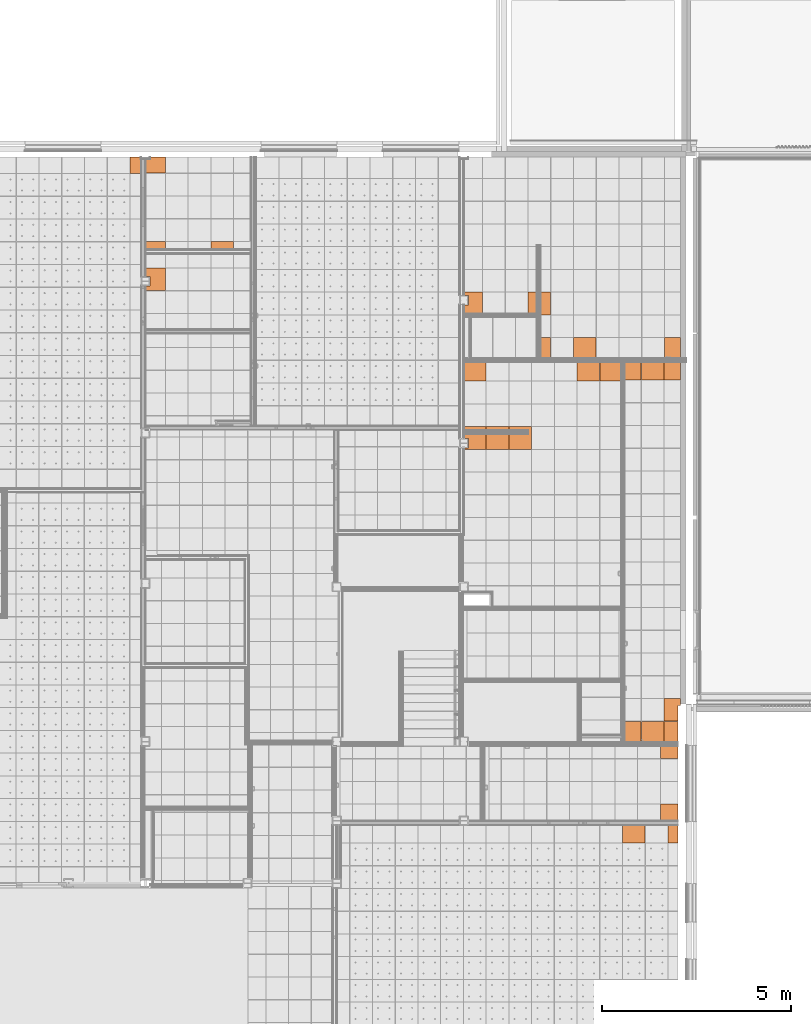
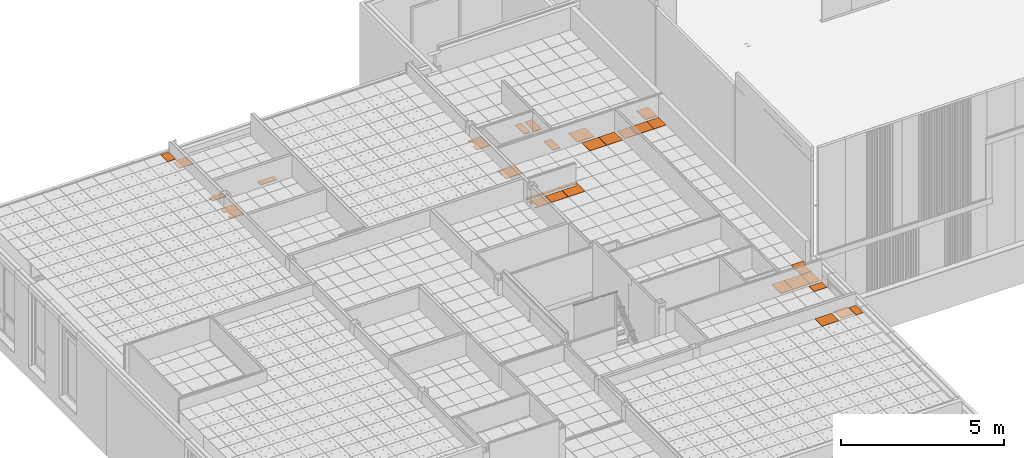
# One storey, part 335 of 338: 30 proxies, 8 elements without a shape of their own.
"""IFC2X3 building model written with IfcOpenShell, lengths in millimetres."""

from ifc_helpers import new_model, entity, si_unit, converted_unit, derived_unit, money_unit, direction, frame, origin_with_axes, place, context, subcontext, project, spatial, faceted_brep, material, type_object, element, aggregate, save


model = new_model("IFC2X3")

# Units and contexts
model_context = context("Model", 3, precision=0.01, world=origin_with_axes(), true_north=direction((0.0, 1.0)))
plan_context = context("Plan", 3, precision=0.01, world=origin_with_axes(), true_north=direction((0.0, 1.0)))
body_context = subcontext(model_context, "Body", "Model", "MODEL_VIEW")
ifc_project = project(units=[si_unit("LENGTHUNIT", "METRE", prefix="MILLI"), si_unit("AREAUNIT", "SQUARE_METRE"), si_unit("VOLUMEUNIT", "CUBIC_METRE"), converted_unit("PLANEANGLEUNIT", "DEGREE", entity("IfcPlaneAngleMeasure", 0.0174532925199), si_unit("PLANEANGLEUNIT", "RADIAN"), dimensions=[0, 0, 0, 0, 0, 0, 0]), money_unit("EUR"), converted_unit("TIMEUNIT", "Year", entity("IfcTimeMeasure", 31556926.0), si_unit("TIMEUNIT", "SECOND"), dimensions=[0, 0, 1, 0, 0, 0, 0]), si_unit("MASSUNIT", "GRAM", prefix="KILO"), si_unit("THERMODYNAMICTEMPERATUREUNIT", "DEGREE_CELSIUS"), si_unit("LUMINOUSINTENSITYUNIT", "LUMEN"), si_unit("ENERGYUNIT", "JOULE", prefix="MEGA"), derived_unit("THERMALCONDUCTANCEUNIT", [(si_unit("POWERUNIT", "WATT"), 1), (si_unit("LENGTHUNIT", "METRE"), -1), (si_unit("THERMODYNAMICTEMPERATUREUNIT", "KELVIN"), -1)]), derived_unit("SPECIFICHEATCAPACITYUNIT", [(si_unit("ENERGYUNIT", "JOULE"), 1), (si_unit("MASSUNIT", "GRAM", prefix="KILO"), -1), (si_unit("THERMODYNAMICTEMPERATUREUNIT", "KELVIN"), -1)]), derived_unit("MASSDENSITYUNIT", [(si_unit("MASSUNIT", "GRAM", prefix="KILO"), 1), (si_unit("VOLUMEUNIT", "CUBIC_METRE"), -1)])], contexts=[model_context, plan_context])

# Site, building, storey
site_placement = place(None, origin_with_axes())
site = spatial("IfcSite", under=ifc_project, at=site_placement, Name="Fortuinstraat Woensdrecht", CompositionType="ELEMENT")
building_placement = place(site_placement, origin_with_axes())
building = spatial("IfcBuilding", under=site, at=building_placement, Name="IKC Fortuna", CompositionType="ELEMENT")
storey_placement = place(building_placement, origin_with_axes())
storey = spatial("IfcBuildingStorey", under=building, at=storey_placement, Name="00 begane grond", CompositionType="ELEMENT", Elevation=0.0)

# Covering, proxy
covering_type = type_object("IfcCoveringType", Name="Curtain Wall Type", PredefinedType="CEILING")
covering_1_placement = place(storey_placement, frame((29266.9722516, 29133.4974296, 2810.0), z_axis=(0.0, 0.0, 1.0), x_axis=(1.0, 0.0, 0.0)))
covering_1 = element("IfcCovering", 1, at=covering_1_placement, inside=storey, type_object=covering_type, Name="45_Plafondafwerking_P02 v", PredefinedType="CEILING")
ifc_material = material(Name="Gipsplaat")
building_element_proxy_type_1 = type_object("IfcBuildingElementProxyType", Name="Distinct Panel 600 x 600 x 20", PredefinedType="NOTDEFINED")
proxy_1_placement = place(covering_1_placement, frame((1166.87364251, -1125.49583129, 0.0), z_axis=(0.0, 0.0, 1.0), x_axis=(1.0, 0.0, 0.0)))
proxy_1 = element("IfcBuildingElementProxy", 2, at=proxy_1_placement, type_object=building_element_proxy_type_1, material=ifc_material, Name="__Panel-D", context=body_context, shape_type="Brep", body=[
    faceted_brep([(-274.336362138, 222.995831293, -10.0), (-274.336362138, 222.995831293, 9.99999999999), (320.663637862, 222.995831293, 9.99999999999), (320.663637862, 222.995831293, -10.0), (-274.336362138, 127.004199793, -10.0), (-274.336362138, 127.004199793, 9.99999999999), (233.009088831, 127.004199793, 9.99999999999), (233.009088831, 22.004137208, 9.99999999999), (-274.336362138, 22.004137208, 9.99999999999), (-274.336362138, -372.004168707, 9.99999999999), (320.663637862, -372.004168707, 9.99999999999), (320.663637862, -372.004168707, -10.0), (-274.336362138, -372.004168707, -10.0), (-274.336362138, 22.004137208, -10.0), (233.009088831, 22.004137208, -10.0), (233.009088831, 127.004199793, -10.0)], [[[0, 1, 2, 3]], [[4, 5, 1, 0]], [[1, 5, 6, 7, 8, 9, 10, 2]], [[3, 2, 10, 11]], [[0, 3, 11, 12, 13, 14, 15, 4]], [[15, 6, 5, 4]], [[14, 7, 6, 15]], [[13, 8, 7, 14]], [[12, 9, 8, 13]], [[11, 10, 9, 12]]]),
])

covering_2_placement = place(storey_placement, frame((15059.4416165, 34009.703821, 3210.0), z_axis=(0.0, 0.0, 1.0), x_axis=(1.0, 0.0, 0.0)))
covering_2 = element("IfcCovering", 3, at=covering_2_placement, inside=storey, type_object=covering_type, Name="45_Plafondafwerking_P01", PredefinedType="CEILING")
building_element_proxy_type_2 = type_object("IfcBuildingElementProxyType", Name="Main Panel 287 x 437 x 20", PredefinedType="NOTDEFINED")
proxy_2_placement = place(covering_2_placement, frame((5293.32888965, 1170.56186608, 0.0), z_axis=(0.0, 0.0, 1.0), x_axis=(1.0, 0.0, 0.0)))
proxy_2 = element("IfcBuildingElementProxy", 4, at=proxy_2_placement, type_object=building_element_proxy_type_2, material=ifc_material, Name="__Panel-D", context=body_context, shape_type="Brep", body=[
    faceted_brep([(91.6644821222, 163.530911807, -10.0), (-190.828887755, 163.530911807, -10.0), (-190.828887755, 163.530911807, 9.99999999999), (91.6644821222, 163.530911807, 9.99999999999), (91.6644821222, 102.030953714, -10.0), (96.6644078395, 102.030953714, -10.0), (96.6644078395, -268.061864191, -10.0), (-190.828887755, -268.061864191, -10.0), (-190.828887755, -268.061864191, 9.99999999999), (96.6644078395, -268.061864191, 9.99999999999), (96.6644078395, 102.030953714, 9.99999999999), (91.6644821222, 102.030953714, 9.99999999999)], [[[0, 1, 2, 3]], [[0, 4, 5, 6, 7, 1]], [[1, 7, 8, 2]], [[3, 2, 8, 9, 10, 11]], [[4, 0, 3, 11]], [[5, 4, 11, 10]], [[6, 5, 10, 9]], [[7, 6, 9, 8]]]),
])
aggregate(covering_2, [proxy_2])

# Covering, proxies
covering_3_placement = place(storey_placement, frame((21994.4445848, 33013.5541843, 2810.0), z_axis=(0.0, 0.0, 1.0), x_axis=(1.0, 0.0, 0.0)))
covering_3 = element("IfcCovering", 5, at=covering_3_placement, inside=storey, type_object=covering_type, Name="45_Plafondafwerking_P02", PredefinedType="CEILING")
building_element_proxy_type_3 = type_object("IfcBuildingElementProxyType", Name="Distinct Panel 600 x 212 x 20", PredefinedType="NOTDEFINED")
proxy_3_placement = place(covering_3_placement, frame((600.0, 3.44918049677e-06, 0.0), z_axis=(0.0, 0.0, 1.0), x_axis=(1.0, 0.0, 0.0)))
proxy_3 = element("IfcBuildingElementProxy", 6, at=proxy_3_placement, type_object=building_element_proxy_type_3, material=ifc_material, Name="__Panel-D", context=body_context, shape_type="Brep", body=[
    faceted_brep([(297.5, 103.742352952, -10.0), (-297.5, 103.742352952, -10.0), (-297.5, 103.742352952, 9.99999999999), (297.5, 103.742352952, 9.99999999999), (297.5, -103.742340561, -10.0), (-297.5, -103.742358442, -10.0), (-297.5, -103.742358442, 9.99999999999), (297.5, -103.742340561, 9.99999999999)], [[[0, 1, 2, 3]], [[0, 4, 5, 1]], [[1, 5, 6, 2]], [[3, 2, 6, 7]], [[4, 0, 3, 7]], [[5, 4, 7, 6]]]),
])
building_element_proxy_type_4 = type_object("IfcBuildingElementProxyType", Name="Distinct Panel 518 x 212 x 20", PredefinedType="NOTDEFINED")
proxy_4_placement = place(covering_3_placement, frame((-1158.7548042, 1.01342223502e-05, 0.0), z_axis=(0.0, 0.0, 1.0), x_axis=(1.0, 0.0, 0.0)))
proxy_4 = element("IfcBuildingElementProxy", 7, at=proxy_4_placement, type_object=building_element_proxy_type_4, material=ifc_material, Name="__Panel-D", context=body_context, shape_type="Brep", body=[
    faceted_brep([(256.254804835, 103.742343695, -10.0), (-256.254804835, 103.742343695, -10.0), (-256.254804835, 103.742343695, 9.99999999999), (256.254804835, 103.742343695, 9.99999999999), (256.254804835, -103.742365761, -10.0), (-256.254804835, -103.742327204, -10.0), (-256.254804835, -103.742327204, 9.99999999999), (256.254804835, -103.742365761, 9.99999999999)], [[[0, 1, 2, 3]], [[0, 4, 5, 1]], [[1, 5, 6, 2]], [[3, 2, 6, 7]], [[4, 0, 3, 7]], [[5, 4, 7, 6]]]),
])
building_element_proxy_type_5 = type_object("IfcBuildingElementProxyType", Name="Distinct Panel 403 x 62 x 20", PredefinedType="NOTDEFINED")
proxy_5_placement = place(covering_3_placement, frame((-1206.67307388, 2170.07573825, 0.0), z_axis=(0.0, 0.0, 1.0), x_axis=(1.0, 0.0, 0.0)))
proxy_5 = element("IfcBuildingElementProxy", 8, at=proxy_5_placement, type_object=building_element_proxy_type_5, material=ifc_material, Name="__Panel-D", context=body_context, shape_type="Brep", body=[
    faceted_brep([(304.173074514, 160.166697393, -10.0), (-93.3365411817, 160.166697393, -10.0), (-93.3365411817, 160.166697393, 9.99999999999), (304.173074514, 160.166697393, 9.99999999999), (304.173074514, -261.333383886, -10.0), (-208.336535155, -261.333383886, -10.0), (-208.336535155, 98.6666867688, -10.0), (-93.3365411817, 98.6666867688, -10.0), (-93.3365411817, 98.6666867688, 9.99999999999), (-208.336535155, 98.6666867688, 9.99999999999), (-208.336535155, -261.333383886, 9.99999999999), (304.173074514, -261.333383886, 9.99999999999)], [[[0, 1, 2, 3]], [[0, 4, 5, 6, 7, 1]], [[1, 7, 8, 2]], [[3, 2, 8, 9, 10, 11]], [[4, 0, 3, 11]], [[5, 4, 11, 10]], [[6, 5, 10, 9]], [[7, 6, 9, 8]]]),
])
aggregate(covering_3, [proxy_4, proxy_3, proxy_5])

# Covering, proxy
covering_4_placement = place(storey_placement, frame((22594.4446507, 31013.6071773, 2810.0), z_axis=(0.0, 0.0, 1.0), x_axis=(1.0, 0.0, 0.0)))
covering_4 = element("IfcCovering", 9, at=covering_4_placement, inside=storey, type_object=covering_type, Name="45_Plafondafwerking_P02", PredefinedType="CEILING")
building_element_proxy_type_6 = type_object("IfcBuildingElementProxyType", Name="Distinct Panel 518 x 230 x 20", PredefinedType="NOTDEFINED")
proxy_6_placement = place(covering_4_placement, frame((-1860.63226639, 1079.94701755, 0.0), z_axis=(0.0, 0.0, 1.0), x_axis=(1.0, 0.0, 0.0)))
proxy_6 = element("IfcBuildingElementProxy", 10, at=proxy_6_placement, type_object=building_element_proxy_type_6, material=ifc_material, Name="__Panel-D", context=body_context, shape_type="Brep", body=[
    faceted_brep([(358.13226492, 323.757575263, -10.0), (-154.377426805, 323.757575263, -10.0), (-154.377426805, 323.757575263, 9.99999999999), (358.13226492, 323.757575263, 9.99999999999), (358.13226492, -271.242424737, -10.0), (-154.377426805, -271.242424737, -10.0), (-154.377426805, -151.257561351, -10.0), (-44.3774089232, -151.257561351, -10.0), (-44.3774089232, 98.7424118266, -10.0), (-154.377426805, 98.7424118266, -10.0), (-154.377426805, 98.7424118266, 9.99999999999), (-44.3774089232, 98.7424118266, 9.99999999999), (-44.3774089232, -151.257561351, 9.99999999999), (-154.377426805, -151.257561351, 9.99999999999), (-154.377426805, -271.242424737, 9.99999999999), (358.13226492, -271.242424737, 9.99999999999)], [[[0, 1, 2, 3]], [[0, 4, 5, 6, 7, 8, 9, 1]], [[1, 9, 10, 2]], [[3, 2, 10, 11, 12, 13, 14, 15]], [[4, 0, 3, 15]], [[5, 4, 15, 14]], [[6, 5, 14, 13]], [[7, 6, 13, 12]], [[8, 7, 12, 11]], [[9, 8, 11, 10]]]),
])
aggregate(covering_4, [proxy_6])

# Covering, proxies
covering_5_placement = place(storey_placement, frame((30854.3216019, 19636.030534, 2810.0), z_axis=(0.0, 0.0, 1.0), x_axis=(1.0, 0.0, 0.0)))
covering_5 = element("IfcCovering", 11, at=covering_5_placement, inside=storey, type_object=covering_type, Name="45_Plafondafwerking_P02 gec", PredefinedType="CEILING")
building_element_proxy_type_7 = type_object("IfcBuildingElementProxyType", Name="Distinct Panel 465 x 328 x 20", PredefinedType="NOTDEFINED")
proxy_7_placement = place(covering_5_placement, frame((3532.55269407, 4.04783051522e-06, 1.55875312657e-10), z_axis=(0.0, 0.0, 1.0), x_axis=(1.0, 0.0, 0.0)))
proxy_7 = element("IfcBuildingElementProxy", 12, at=proxy_7_placement, type_object=building_element_proxy_type_7, material=ifc_material, Name="__Panel-D", context=body_context, shape_type="Brep", body=[
    faceted_brep([(-230.052695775, 161.266101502, -10.0), (-230.052695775, 161.266101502, 9.99999999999), (230.052695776, 161.266101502, 9.99999999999), (230.052695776, 161.266101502, -10.0), (-230.052695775, -161.26610656, -10.0), (-230.052695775, -161.26610656, 9.99999999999), (230.052695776, -161.266106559, 9.99999999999), (230.052695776, -161.266106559, -10.0)], [[[0, 1, 2, 3]], [[4, 5, 1, 0]], [[1, 5, 6, 2]], [[3, 2, 6, 7]], [[0, 3, 7, 4]], [[7, 6, 5, 4]]]),
])
building_element_proxy_type_8 = type_object("IfcBuildingElementProxyType", Name="Distinct Panel 465 x 437 x 20", PredefinedType="NOTDEFINED")
proxy_8_placement = place(covering_5_placement, frame((3532.55269407, -1582.49999768, 1.55875312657e-10), z_axis=(0.0, 0.0, 1.0), x_axis=(1.0, 0.0, 0.0)))
proxy_8 = element("IfcBuildingElementProxy", 13, at=proxy_8_placement, type_object=building_element_proxy_type_8, material=ifc_material, Name="__Panel-D", context=body_context, shape_type="Brep", body=[
    faceted_brep([(-230.052695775, 216.233897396, -10.0), (-230.052695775, 216.233897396, 9.99999999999), (230.052695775, 216.233897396, 9.99999999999), (230.052695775, 216.233897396, -10.0), (-230.052695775, -216.233891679, -10.0), (-230.052695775, -216.233891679, 9.99999999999), (230.052695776, -216.23390554, 9.99999999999), (230.052695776, -216.23390554, -10.0)], [[[0, 1, 2, 3]], [[4, 5, 1, 0]], [[1, 5, 6, 2]], [[3, 2, 6, 7]], [[0, 3, 7, 4]], [[7, 6, 5, 4]]]),
])
aggregate(covering_5, [proxy_7, proxy_8])

covering_6_placement = place(storey_placement, frame((33951.5455551, 20180.4597436, 2810.0), z_axis=(0.0, 0.0, 1.0), x_axis=(1.0, 0.0, 0.0)))
covering_6 = element("IfcCovering", 14, at=covering_6_placement, inside=storey, type_object=covering_type, Name="45_Plafondafwerking_P02", PredefinedType="CEILING")
building_element_proxy_type_9 = type_object("IfcBuildingElementProxyType", Name="Distinct Panel 600 x 561 x 20", PredefinedType="NOTDEFINED")
proxy_9_placement = place(covering_6_placement, origin_with_axes())
proxy_9 = element("IfcBuildingElementProxy", 15, at=proxy_9_placement, type_object=building_element_proxy_type_9, material=ifc_material, Name="__Panel-D", context=body_context, shape_type="Brep", body=[
    faceted_brep([(-297.5, 278.163129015, -10.0), (-297.5, 278.163129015, 9.99999999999), (297.5, 278.163129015, 9.99999999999), (297.5, 278.163129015, -10.0), (-297.5, -278.16312626, -10.0), (-297.5, -278.16312626, 9.99999999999), (297.5, -278.16312626, 9.99999999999), (297.5, -278.16312626, -10.0)], [[[0, 1, 2, 3]], [[4, 5, 1, 0]], [[1, 5, 6, 2]], [[3, 2, 6, 7]], [[0, 3, 7, 4]], [[7, 6, 5, 4]]]),
])
building_element_proxy_type_10 = type_object("IfcBuildingElementProxyType", Name="Distinct Panel 600 x 471 x 20", PredefinedType="NOTDEFINED")
proxy_10_placement = place(covering_6_placement, frame((2.34479102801e-10, 9516.34237325, 0.0), z_axis=(0.0, 0.0, 1.0), x_axis=(1.0, 0.0, 0.0)))
proxy_10 = element("IfcBuildingElementProxy", 16, at=proxy_10_placement, type_object=building_element_proxy_type_10, material=ifc_material, Name="__Panel-D", context=body_context, shape_type="Brep", body=[
    faceted_brep([(-297.5, 233.179248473, -10.0), (-297.5, 233.179248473, 9.99999999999), (297.5, 233.179248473, 9.99999999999), (297.5, 233.179248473, -10.0), (-297.5, -233.179246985, -10.0), (-297.5, -233.179246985, 9.99999999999), (297.5, -233.179246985, 9.99999999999), (297.5, -233.179246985, -10.0)], [[[0, 1, 2, 3]], [[4, 5, 1, 0]], [[1, 5, 6, 2]], [[3, 2, 6, 7]], [[0, 3, 7, 4]], [[7, 6, 5, 4]]]),
])
building_element_proxy_type_11 = type_object("IfcBuildingElementProxyType", Name="Distinct Panel 432 x 193 x 20", PredefinedType="NOTDEFINED")
proxy_11_placement = place(covering_6_placement, frame((566.58768069, 616.387706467, 0.0), z_axis=(0.0, 0.0, 1.0), x_axis=(1.0, 0.0, 0.0)))
proxy_11 = element("IfcBuildingElementProxy", 17, at=proxy_11_placement, type_object=building_element_proxy_type_11, material=ifc_material, Name="__Panel-D", context=body_context, shape_type="Brep", body=[
    faceted_brep([(-264.087683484, 261.775419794, -10.0), (-264.087683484, 261.775419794, 9.99999999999), (162.793825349, 261.775419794, 9.99999999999), (162.793825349, 261.775419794, -10.0), (-264.087683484, -333.224580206, -10.0), (-264.087683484, -333.224580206, 9.99999999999), (98.7938432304, -333.224580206, 9.99999999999), (98.7938700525, 73.9491645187, 9.99999999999), (162.793825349, 73.9491645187, 9.99999999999), (162.793825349, 73.9491645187, -10.0), (98.7938700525, 73.9491645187, -10.0), (98.7938432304, -333.224580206, -10.0)], [[[0, 1, 2, 3]], [[4, 5, 1, 0]], [[1, 5, 6, 7, 8, 2]], [[3, 2, 8, 9]], [[0, 3, 9, 10, 11, 4]], [[11, 6, 5, 4]], [[10, 7, 6, 11]], [[9, 8, 7, 10]]]),
])
building_element_proxy_type_12 = type_object("IfcBuildingElementProxyType", Name="Distinct Panel 432 x 471 x 20", PredefinedType="NOTDEFINED")
proxy_12_placement = place(covering_6_placement, frame((515.940749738, 9516.34237325, 0.0), z_axis=(0.0, 0.0, 1.0), x_axis=(1.0, 0.0, 0.0)))
proxy_12 = element("IfcBuildingElementProxy", 18, at=proxy_12_placement, type_object=building_element_proxy_type_12, material=ifc_material, Name="__Panel-D", context=body_context, shape_type="Brep", body=[
    faceted_brep([(-213.440746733, 233.179246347, -10.0), (-213.440746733, 233.179246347, 9.99999999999), (213.440741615, 233.179246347, 9.99999999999), (213.440741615, 233.179246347, -10.0), (-213.440746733, -233.179246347, -10.0), (-213.440746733, -233.179246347, 9.99999999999), (213.440755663, -233.179246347, 9.99999999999), (213.440755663, -233.179246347, -10.0)], [[[0, 1, 2, 3]], [[4, 5, 1, 0]], [[1, 5, 6, 2]], [[3, 2, 6, 7]], [[0, 3, 7, 4]], [[7, 6, 5, 4]]]),
])
proxy_13_placement = place(covering_6_placement, frame((-515.940772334, 9516.34237325, 0.0), z_axis=(0.0, 0.0, 1.0), x_axis=(1.0, 0.0, 0.0)))
proxy_13 = element("IfcBuildingElementProxy", 19, at=proxy_13_placement, type_object=building_element_proxy_type_12, material=ifc_material, Name="__Panel-D", context=body_context, shape_type="Brep", body=[
    faceted_brep([(-213.440772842, 233.179246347, -10.0), (-213.440772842, 233.179246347, 9.99999999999), (213.440771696, 233.179246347, 9.99999999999), (213.440771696, 233.179246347, -10.0), (-213.440772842, -233.179246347, -10.0), (-213.440772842, -233.179246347, 9.99999999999), (213.440771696, -233.179246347, 9.99999999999), (213.440771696, -233.179246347, -10.0)], [[[0, 1, 2, 3]], [[4, 5, 1, 0]], [[1, 5, 6, 2]], [[3, 2, 6, 7]], [[0, 3, 7, 4]], [[7, 6, 5, 4]]]),
])
building_element_proxy_type_13 = type_object("IfcBuildingElementProxyType", Name="Distinct Panel 432 x 561 x 20", PredefinedType="NOTDEFINED")
proxy_14_placement = place(covering_6_placement, frame((-515.940765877, 0.0, 0.0), z_axis=(0.0, 0.0, 1.0), x_axis=(1.0, 0.0, 0.0)))
proxy_14 = element("IfcBuildingElementProxy", 20, at=proxy_14_placement, type_object=building_element_proxy_type_13, material=ifc_material, Name="__Panel-D", context=body_context, shape_type="Brep", body=[
    faceted_brep([(-213.440752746, 278.163126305, -10.0), (-213.440752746, 278.163126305, 9.99999999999), (213.440765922, 278.163126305, 9.99999999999), (213.440765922, 278.163126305, -10.0), (-213.440777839, -278.163126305, -10.0), (-213.440777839, -278.163126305, 9.99999999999), (213.440765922, -278.163126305, 9.99999999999), (213.440765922, -278.163126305, -10.0)], [[[0, 1, 2, 3]], [[4, 5, 1, 0]], [[1, 5, 6, 2]], [[3, 2, 6, 7]], [[0, 3, 7, 4]], [[7, 6, 5, 4]]]),
])
building_element_proxy_type_14 = type_object("IfcBuildingElementProxyType", Name="Distinct Panel 368 x 561 x 20", PredefinedType="NOTDEFINED")
proxy_15_placement = place(covering_6_placement, frame((483.940762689, 0.0, 0.0), z_axis=(0.0, 0.0, 1.0), x_axis=(1.0, 0.0, 0.0)))
proxy_15 = element("IfcBuildingElementProxy", 21, at=proxy_15_placement, type_object=building_element_proxy_type_14, material=ifc_material, Name="__Panel-D", context=body_context, shape_type="Brep", body=[
    faceted_brep([(-181.440765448, 278.163126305, -10.0), (-181.440765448, 278.163126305, 9.99999999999), (181.440762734, 278.163126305, 9.99999999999), (181.440762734, 278.163126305, -10.0), (-181.440765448, -278.163126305, -10.0), (-181.440765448, -278.163126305, 9.99999999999), (181.440762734, -278.163126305, 9.99999999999), (181.440762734, -278.163126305, -10.0)], [[[0, 1, 2, 3]], [[4, 5, 1, 0]], [[1, 5, 6, 2]], [[3, 2, 6, 7]], [[0, 3, 7, 4]], [[7, 6, 5, 4]]]),
])
aggregate(covering_6, [proxy_9, proxy_10, proxy_11, proxy_12, proxy_14, proxy_13, proxy_15])

covering_7_placement = place(storey_placement, frame((34473.6590305, 30882.3889696, 2810.0), z_axis=(0.0, 0.0, 1.0), x_axis=(1.0, 0.0, 0.0)))
covering_7 = element("IfcCovering", 22, at=covering_7_placement, inside=storey, type_object=covering_type, Name="45_Plafondafwerking_P02 v", PredefinedType="CEILING")
building_element_proxy_type_15 = type_object("IfcBuildingElementProxyType", Name="Distinct Panel 600 x 550 x 20", PredefinedType="NOTDEFINED")
proxy_16_placement = place(covering_7_placement, frame((-2309.76800248, -574.953834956, 1.04360964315e-10), z_axis=(0.0, 0.0, 1.0), x_axis=(1.0, 0.0, 0.0)))
proxy_16 = element("IfcBuildingElementProxy", 23, at=proxy_16_placement, type_object=building_element_proxy_type_15, material=ifc_material, Name="__Panel-D", context=body_context, shape_type="Brep", body=[
    faceted_brep([(-297.5, 272.453834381, -10.0), (-297.5, 272.453834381, 9.99999999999), (297.5, 272.453834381, 9.99999999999), (297.5, 272.453834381, -10.0), (-297.5, -272.453834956, -10.0), (-297.5, -272.453834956, 9.99999999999), (297.5, -272.453834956, 9.99999999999), (297.5, -272.453834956, -10.0)], [[[0, 1, 2, 3]], [[4, 5, 1, 0]], [[1, 5, 6, 2]], [[3, 2, 6, 7]], [[0, 3, 7, 4]], [[7, 6, 5, 4]]]),
])
building_element_proxy_type_16 = type_object("IfcBuildingElementProxyType", Name="Distinct Panel 487 x 566 x 20", PredefinedType="NOTDEFINED")
proxy_17_placement = place(covering_7_placement, frame((-5347.4850453, 653.476913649, 0.0), z_axis=(0.0, 0.0, 1.0), x_axis=(1.0, 0.0, 0.0)))
proxy_17 = element("IfcBuildingElementProxy", 24, at=proxy_17_placement, type_object=building_element_proxy_type_16, material=ifc_material, Name="__Panel-D", context=body_context, shape_type="Brep", body=[
    faceted_brep([(-146.739026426, 244.023088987, -10.0), (-146.739026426, 244.023088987, 9.99999999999), (335.217045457, 244.023088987, 9.99999999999), (335.217045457, 244.023088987, -10.0), (-146.739026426, 161.430753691, -10.0), (-146.739026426, 161.430753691, 9.99999999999), (-36.7389821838, 161.430753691, 9.99999999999), (-36.7389821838, -88.5692441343, 9.99999999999), (-146.739026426, -88.5692441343, 9.99999999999), (-146.739026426, -316.884605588, 9.99999999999), (335.217045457, -316.884605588, 9.99999999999), (335.217045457, -316.884605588, -10.0), (-146.739026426, -316.884605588, -10.0), (-146.739026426, -88.5692441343, -10.0), (-36.7389821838, -88.5692441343, -10.0), (-36.7389821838, 161.430753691, -10.0)], [[[0, 1, 2, 3]], [[4, 5, 1, 0]], [[1, 5, 6, 7, 8, 9, 10, 2]], [[3, 2, 10, 11]], [[0, 3, 11, 12, 13, 14, 15, 4]], [[15, 6, 5, 4]], [[14, 7, 6, 15]], [[13, 8, 7, 14]], [[12, 9, 8, 13]], [[11, 10, 9, 12]]]),
])
building_element_proxy_type_17 = type_object("IfcBuildingElementProxyType", Name="Distinct Panel 420 x 550 x 20", PredefinedType="NOTDEFINED")
proxy_18_placement = place(covering_7_placement, frame((0.0, -574.953843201, 1.80744308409e-10), z_axis=(0.0, 0.0, 1.0), x_axis=(1.0, 0.0, 0.0)))
proxy_18 = element("IfcBuildingElementProxy", 25, at=proxy_18_placement, type_object=building_element_proxy_type_17, material=ifc_material, Name="__Panel-D", context=body_context, shape_type="Brep", body=[
    faceted_brep([(-207.268004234, 272.453844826, -10.0), (-207.268004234, 272.453844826, 9.99999999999), (207.268004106, 272.453844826, 9.99999999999), (207.268004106, 272.453844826, -10.0), (-207.268004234, -272.45382854, -10.0), (-207.268004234, -272.45382854, 9.99999999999), (207.268004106, -272.453861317, 9.99999999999), (207.268004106, -272.453861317, -10.0)], [[[0, 1, 2, 3]], [[4, 5, 1, 0]], [[1, 5, 6, 2]], [[3, 2, 6, 7]], [[0, 3, 7, 4]], [[7, 6, 5, 4]]]),
])
building_element_proxy_type_18 = type_object("IfcBuildingElementProxyType", Name="Distinct Panel 270 x 600 x 20", PredefinedType="NOTDEFINED")
proxy_19_placement = place(covering_7_placement, frame((-3344.53073261, 600.0, 0.0), z_axis=(0.0, 0.0, 1.0), x_axis=(1.0, 0.0, 0.0)))
proxy_19 = element("IfcBuildingElementProxy", 26, at=proxy_19_placement, type_object=building_element_proxy_type_18, material=ifc_material, Name="__Panel-D", context=body_context, shape_type="Brep", body=[
    faceted_brep([(-132.262733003, 297.5, -10.0), (-132.262733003, 297.5, 9.99999999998), (132.262730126, 297.5, 9.99999999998), (132.262730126, 297.5, -10.0), (-132.262733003, -297.5, -10.0), (-132.262733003, -297.5, 9.99999999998), (132.262730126, -297.5, 9.99999999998), (132.262730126, -297.5, -10.0)], [[[0, 1, 2, 3]], [[4, 5, 1, 0]], [[1, 5, 6, 2]], [[3, 2, 6, 7]], [[0, 3, 7, 4]], [[7, 6, 5, 4]]]),
])
building_element_proxy_type_19 = type_object("IfcBuildingElementProxyType", Name="Distinct Panel 270 x 550 x 20", PredefinedType="NOTDEFINED")
proxy_20_placement = place(covering_7_placement, frame((-3344.53073261, -574.953834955, 0.0), z_axis=(0.0, 0.0, 1.0), x_axis=(1.0, 0.0, 0.0)))
proxy_20 = element("IfcBuildingElementProxy", 27, at=proxy_20_placement, type_object=building_element_proxy_type_19, material=ifc_material, Name="__Panel-D", context=body_context, shape_type="Brep", body=[
    faceted_brep([(-132.262730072, 272.45383673, -10.0), (-132.262730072, 272.45383673, 9.99999999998), (132.2627319, 272.45383673, 9.99999999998), (132.2627319, 272.45383673, -10.0), (-132.262730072, -272.45383673, -10.0), (-132.262730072, -272.45383673, 9.99999999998), (132.2627319, -272.45383673, 9.99999999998), (132.2627319, -272.45383673, -10.0)], [[[0, 1, 2, 3]], [[4, 5, 1, 0]], [[1, 5, 6, 2]], [[3, 2, 6, 7]], [[0, 3, 7, 4]], [[7, 6, 5, 4]]]),
])
building_element_proxy_type_20 = type_object("IfcBuildingElementProxyType", Name="Distinct Panel 230 x 566 x 20", PredefinedType="NOTDEFINED")
proxy_21_placement = place(covering_7_placement, frame((-3694.53073503, 617.046182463, 0.0), z_axis=(0.0, 0.0, 1.0), x_axis=(1.0, 0.0, 0.0)))
proxy_21 = element("IfcBuildingElementProxy", 28, at=proxy_21_placement, type_object=building_element_proxy_type_20, material=ifc_material, Name="__Panel-D", context=body_context, shape_type="Brep", body=[
    faceted_brep([(-112.737264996, 280.453820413, -10.0), (-112.737264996, 280.453820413, 10.0), (112.737270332, 280.453820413, 10.0), (112.737270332, 280.453820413, -10.0), (-112.737264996, -280.453820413, -10.0), (-112.737264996, -280.453820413, 10.0), (112.737270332, -280.453820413, 10.0), (112.737270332, -280.453820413, -10.0)], [[[0, 1, 2, 3]], [[4, 5, 1, 0]], [[1, 5, 6, 2]], [[3, 2, 6, 7]], [[0, 3, 7, 4]], [[7, 6, 5, 4]]]),
])
aggregate(covering_7, [proxy_17, proxy_16, proxy_18, proxy_19, proxy_20, proxy_21])

# Proxy
building_element_proxy_type_21 = type_object("IfcBuildingElementProxyType", Name="Distinct Panel 600 x 499 x 20", PredefinedType="NOTDEFINED")
proxy_22_placement = place(covering_1_placement, frame((2990.03728037, 549.491940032, 1.07913677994e-10), z_axis=(0.0, 0.0, 1.0), x_axis=(1.0, 0.0, 0.0)))
proxy_22 = element("IfcBuildingElementProxy", 29, at=proxy_22_placement, type_object=building_element_proxy_type_21, material=ifc_material, Name="__Panel-D", context=body_context, shape_type="Brep", body=[
    faceted_brep([(-297.5, 246.991939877, -10.0), (-297.5, 246.991939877, 9.99999999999), (297.5, 246.991939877, 9.99999999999), (297.5, 246.991939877, -10.0), (-297.5, -246.991940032, -10.0), (-297.5, -246.991940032, 9.99999999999), (297.5, -246.991940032, 9.99999999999), (297.5, -246.991940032, -10.0)], [[[0, 1, 2, 3]], [[4, 5, 1, 0]], [[1, 5, 6, 2]], [[3, 2, 6, 7]], [[0, 3, 7, 4]], [[7, 6, 5, 4]]]),
])

building_element_proxy_type_22 = type_object("IfcBuildingElementProxyType", Name="Distinct Panel 563 x 499 x 20", PredefinedType="NOTDEFINED")
proxy_23_placement = place(covering_1_placement, frame((3571.36454448, 549.491940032, 1.27009514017e-10), z_axis=(0.0, 0.0, 1.0), x_axis=(1.0, 0.0, 0.0)))
proxy_23 = element("IfcBuildingElementProxy", 30, at=proxy_23_placement, type_object=building_element_proxy_type_22, material=ifc_material, Name="__Panel-D", context=body_context, shape_type="Brep", body=[
    faceted_brep([(-278.827267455, 246.991939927, -10.0), (-278.827267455, 246.991939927, 9.99999999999), (278.827303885, 246.991939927, 9.99999999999), (278.827303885, 246.991939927, -10.0), (-278.827267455, -246.991943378, -10.0), (-278.827267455, -246.991943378, 9.99999999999), (278.827228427, -246.991943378, 9.99999999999), (278.827228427, -246.991943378, -10.0)], [[[0, 1, 2, 3]], [[4, 5, 1, 0]], [[1, 5, 6, 2]], [[3, 2, 6, 7]], [[0, 3, 7, 4]], [[7, 6, 5, 4]]]),
])

building_element_proxy_type_23 = type_object("IfcBuildingElementProxyType", Name="Distinct Panel 580 x 499 x 20", PredefinedType="NOTDEFINED")
proxy_24_placement = place(covering_1_placement, frame((-5.87757398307e-06, 549.491944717, 0.0), z_axis=(0.0, 0.0, 1.0), x_axis=(1.0, 0.0, 0.0)))
proxy_24 = element("IfcBuildingElementProxy", 31, at=proxy_24_placement, type_object=building_element_proxy_type_23, material=ifc_material, Name="__Panel-D", context=body_context, shape_type="Brep", body=[
    faceted_brep([(-287.537285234, 246.991955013, -10.0), (-287.537285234, 246.991955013, 9.99999999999), (287.537285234, 246.991937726, 9.99999999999), (287.537285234, 246.991937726, -10.0), (-287.537285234, -246.9919437, -10.0), (-287.537285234, -246.9919437, 9.99999999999), (287.537285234, -246.9919437, 9.99999999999), (287.537285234, -246.9919437, -10.0)], [[[0, 1, 2, 3]], [[4, 5, 1, 0]], [[1, 5, 6, 2]], [[3, 2, 6, 7]], [[0, 3, 7, 4]], [[7, 6, 5, 4]]]),
])

building_element_proxy_type_24 = type_object("IfcBuildingElementProxyType", Name="Distinct Panel 580 x 399 x 20", PredefinedType="NOTDEFINED")
proxy_25_placement = place(covering_1_placement, frame((-117.518628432, -1320.84832206, 0.0), z_axis=(0.0, 0.0, 1.0), x_axis=(1.0, 0.0, 0.0)))
proxy_25 = element("IfcBuildingElementProxy", 32, at=proxy_25_placement, type_object=building_element_proxy_type_24, material=ifc_material, Name="__Panel-D", context=body_context, shape_type="Brep", body=[
    faceted_brep([(-170.018639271, 217.356635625, -10.0), (-170.018639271, 217.356635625, 9.99999999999), (405.055907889, 217.356635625, 9.99999999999), (405.055907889, 217.356635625, -10.0), (-170.018639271, 104.647552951, -10.0), (-170.018639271, 104.647552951, 9.99999999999), (-60.0186249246, 104.647552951, 9.99999999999), (-60.0186249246, -145.352504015, 9.99999999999), (-170.018639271, -145.352504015, 9.99999999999), (-170.018639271, -176.651677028, 9.99999999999), (405.05590789, -176.651677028, 9.99999999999), (405.05590789, -176.651677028, -10.0), (-170.018639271, -176.651677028, -10.0), (-170.018639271, -145.352504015, -10.0), (-60.0186249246, -145.352504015, -10.0), (-60.0186249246, 104.647552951, -10.0)], [[[0, 1, 2, 3]], [[4, 5, 1, 0]], [[1, 5, 6, 7, 8, 9, 10, 2]], [[3, 2, 10, 11]], [[0, 3, 11, 12, 13, 14, 15, 4]], [[15, 6, 5, 4]], [[14, 7, 6, 15]], [[13, 8, 7, 14]], [[12, 9, 8, 13]], [[11, 10, 9, 12]]]),
])

building_element_proxy_type_25 = type_object("IfcBuildingElementProxyType", Name="Distinct Panel 600 x 399 x 20", PredefinedType="NOTDEFINED")
proxy_26_placement = place(covering_1_placement, frame((590.037280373, -1300.49584488, 0.0), z_axis=(0.0, 0.0, 1.0), x_axis=(1.0, 0.0, 0.0)))
proxy_26 = element("IfcBuildingElementProxy", 33, at=proxy_26_placement, type_object=building_element_proxy_type_25, material=ifc_material, Name="__Panel-D", context=body_context, shape_type="Brep", body=[
    faceted_brep([(-297.5, 197.004150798, -10.0), (-297.5, 197.004150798, 9.99999999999), (297.5, 197.004150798, 9.99999999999), (297.5, 197.004150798, -10.0), (-297.5, -197.004155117, -10.0), (-297.5, -197.004155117, 9.99999999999), (297.5, -197.004155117, 9.99999999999), (297.5, -197.004155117, -10.0)], [[[0, 1, 2, 3]], [[4, 5, 1, 0]], [[1, 5, 6, 2]], [[3, 2, 6, 7]], [[0, 3, 7, 4]], [[7, 6, 5, 4]]]),
])

building_element_proxy_type_26 = type_object("IfcBuildingElementProxyType", Name="Distinct Panel 600 x 101 x 20", PredefinedType="NOTDEFINED")
proxy_27_placement = place(covering_1_placement, frame((590.037280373, -950.495817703, 0.0), z_axis=(0.0, 0.0, 1.0), x_axis=(1.0, 0.0, 0.0)))
proxy_27 = element("IfcBuildingElementProxy", 34, at=proxy_27_placement, type_object=building_element_proxy_type_26, material=ifc_material, Name="__Panel-D", context=body_context, shape_type="Brep", body=[
    faceted_brep([(-297.5, 47.9958137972, -10.0), (-297.5, 47.9958137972, 9.99999999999), (297.5, 47.9958137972, 9.99999999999), (297.5, 47.9958137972, -10.0), (-297.5, -47.9958177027, -10.0), (-297.5, -47.9958177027, 9.99999999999), (297.5, -47.9958177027, 9.99999999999), (297.5, -47.9958177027, -10.0)], [[[0, 1, 2, 3]], [[4, 5, 1, 0]], [[1, 5, 6, 2]], [[3, 2, 6, 7]], [[0, 3, 7, 4]], [[7, 6, 5, 4]]]),
])

building_element_proxy_type_27 = type_object("IfcBuildingElementProxyType", Name="Distinct Panel 580 x 101 x 20", PredefinedType="NOTDEFINED")
proxy_28_placement = place(covering_1_placement, frame((5.87755977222e-06, -950.495817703, 0.0), z_axis=(0.0, 0.0, 1.0), x_axis=(1.0, 0.0, 0.0)))
proxy_28 = element("IfcBuildingElementProxy", 35, at=proxy_28_placement, type_object=building_element_proxy_type_27, material=ifc_material, Name="__Panel-D", context=body_context, shape_type="Brep", body=[
    faceted_brep([(-287.53727358, 47.995816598, -10.0), (-287.53727358, 47.995816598, 9.99999999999), (287.53727358, 47.995816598, 9.99999999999), (287.53727358, 47.995816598, -10.0), (-287.53727358, -47.9958167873, -10.0), (-287.53727358, -47.9958167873, 9.99999999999), (287.53727358, -47.9958167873, 9.99999999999), (287.53727358, -47.9958167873, -10.0)], [[[0, 1, 2, 3]], [[4, 5, 1, 0]], [[1, 5, 6, 2]], [[3, 2, 6, 7]], [[0, 3, 7, 4]], [[7, 6, 5, 4]]]),
])

aggregate(covering_1, [proxy_23, proxy_24, proxy_22, proxy_25, proxy_26, proxy_27, proxy_1, proxy_28])

# Covering, proxies
covering_8_placement = place(storey_placement, frame((31656.9226967, 15748.5304598, 3210.0), z_axis=(0.0, 0.0, 1.0), x_axis=(1.0, 0.0, 0.0)))
covering_8 = element("IfcCovering", 36, at=covering_8_placement, inside=storey, type_object=covering_type, Name="45_Plafondafwerking_P01", PredefinedType="CEILING")
building_element_proxy_type_28 = type_object("IfcBuildingElementProxyType", Name="600 x 461 x 20", PredefinedType="NOTDEFINED")
proxy_29_placement = place(covering_8_placement, frame((1800.0, 1730.63307755, 0.0), z_axis=(0.0, 0.0, 1.0), x_axis=(1.0, 0.0, 0.0)))
proxy_29 = element("IfcBuildingElementProxy", 37, at=proxy_29_placement, type_object=building_element_proxy_type_28, material=ifc_material, Name="__600x665 Rockfon Krios", context=body_context, shape_type="Brep", body=[
    faceted_brep([(297.5, 228.133085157, -10.0), (-297.5, 228.133085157, -10.0), (-297.5, 228.133085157, 9.99999999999), (297.5, 228.133085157, 9.99999999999), (297.5, -228.133061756, -10.0), (-297.5, -228.133061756, -10.0), (-297.5, -228.133061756, 9.99999999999), (297.5, -228.133061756, 9.99999999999)], [[[0, 1, 2, 3]], [[0, 4, 5, 1]], [[1, 5, 6, 2]], [[3, 2, 6, 7]], [[4, 0, 3, 7]], [[5, 4, 7, 6]]]),
])
building_element_proxy_type_29 = type_object("IfcBuildingElementProxyType", Name="263 x 461 x 20", PredefinedType="NOTDEFINED")
proxy_30_placement = place(covering_8_placement, frame((2831.25215667, 1730.63308478, 0.0), z_axis=(0.0, 0.0, 1.0), x_axis=(1.0, 0.0, 0.0)))
proxy_30 = element("IfcBuildingElementProxy", 38, at=proxy_30_placement, type_object=building_element_proxy_type_29, material=ifc_material, Name="__600x704 Rockfon Krios", context=body_context, shape_type="Brep", body=[
    faceted_brep([(128.752156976, 228.133100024, -10.0), (-128.752153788, 228.133072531, -10.0), (-128.752153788, 228.133072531, 9.99999999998), (128.752156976, 228.133100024, 9.99999999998), (128.752156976, -228.133066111, -10.0), (-128.752153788, -228.133066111, -10.0), (-128.752153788, -228.133066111, 9.99999999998), (128.752156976, -228.133066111, 9.99999999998)], [[[0, 1, 2, 3]], [[0, 4, 5, 1]], [[1, 5, 6, 2]], [[3, 2, 6, 7]], [[4, 0, 3, 7]], [[5, 4, 7, 6]]]),
])
aggregate(covering_8, [proxy_29, proxy_30])

save(model, "model.ifc")
